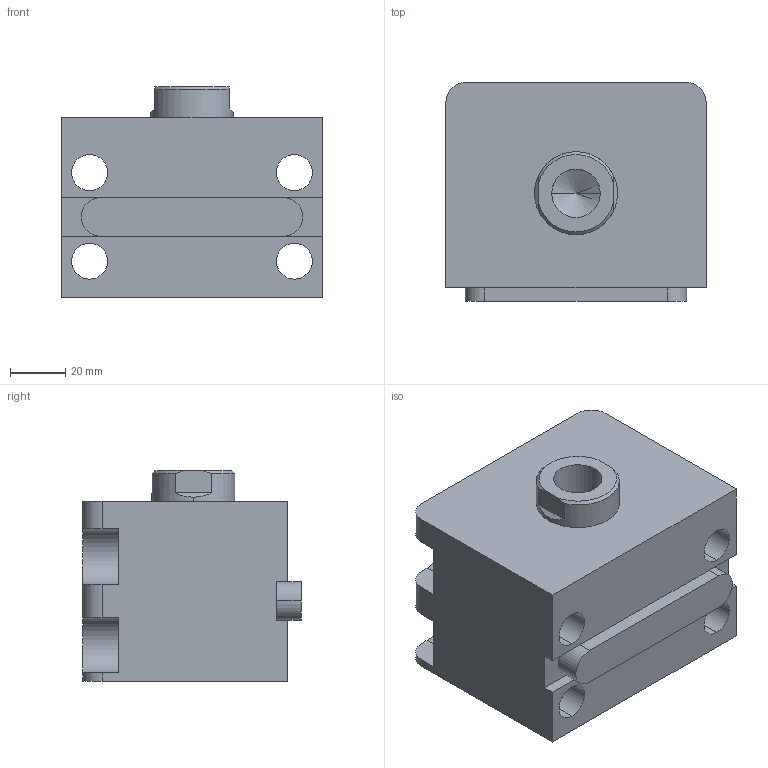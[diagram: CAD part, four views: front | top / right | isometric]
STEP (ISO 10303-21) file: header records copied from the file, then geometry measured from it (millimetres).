
FILE_DESCRIPTION (( 'STEP AP203' ), '1' );
FILE_NAME ('HTB-LA50-5N.STEP', '2019-10-09T07:04:38', ( '微软用户' ), ( '微软中国' ), 'SwSTEP 2.0', 'SolidWorks 2012', '' );
FILE_SCHEMA (( 'CONFIG_CONTROL_DESIGN' ));
Length unit declared in the file: millimetre
Products named in the file (4): HTB-LA50-5N; HTB-LA50-5掛极; HTB-LA50-5N活塞杆; HTB-LA50-瑩
Assembly tree (3 placements, depth 2):
  HTB-LA50-5N
    HTB-LA50-5掛极
    HTB-LA50-5N活塞杆
    HTB-LA50-瑩
Bounding box: 94 x 79 x 76 mm (x, y, z)
Volume: 397281.6 mm3; surface area: 73205.1 mm2
Topology: 3 solids, 3 shells, 86 faces, 213 edges, 139 vertices
Faces by surface type: plane 39, cylinder 35, cone 8, torus 4
Entity records: 3001 total; most frequent: DIRECTION 475, CARTESIAN_POINT 470, ORIENTED_EDGE 422, EDGE_CURVE 211, AXIS2_PLACEMENT_3D 180, VERTEX_POINT 139, LINE 115, VECTOR 115
